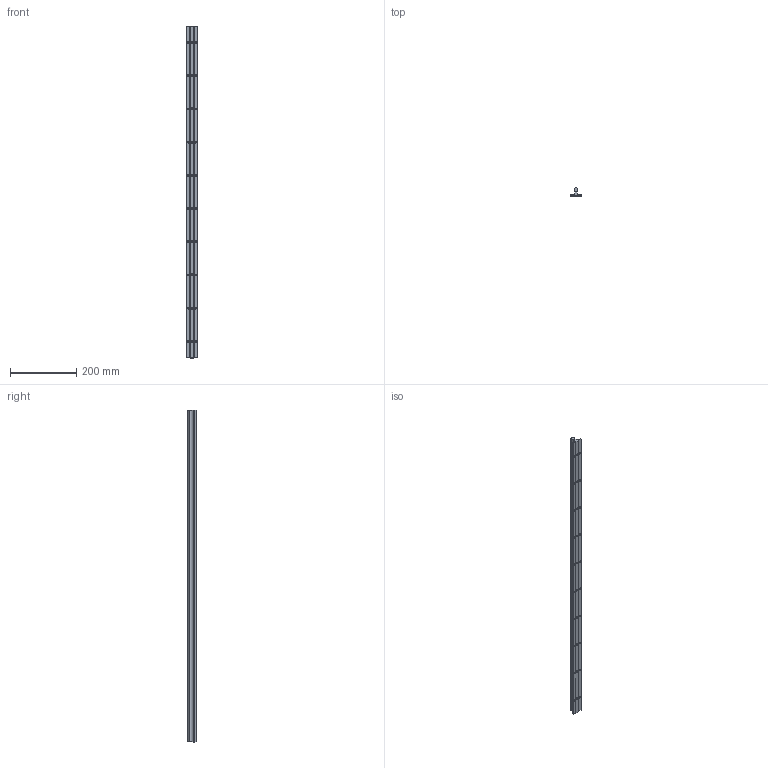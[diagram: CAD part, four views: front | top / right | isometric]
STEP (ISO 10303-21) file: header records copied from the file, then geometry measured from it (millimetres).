
FILE_DESCRIPTION (( 'STEP AP214' ), '1' );
FILE_NAME ('SBR-C12.STEP', '2020-10-01T10:26:57', ( '' ), ( '' ), 'SwSTEP 2.0', 'SolidWorks 2018', '' );
FILE_SCHEMA (( 'AUTOMOTIVE_DESIGN' ));
Length unit declared in the file: millimetre
Products named in the file (1): SBR-C12
Bounding box: 32 x 25 x 1000.1 mm (x, y, z)
Volume: 318319.3 mm3; surface area: 117131.9 mm2
Topology: 1 solids, 1 shells, 381 faces, 916 edges, 522 vertices
Faces by surface type: cone 120, cylinder 110, plane 79, bspline 32, torus 24, sphere 16
Entity records: 13442 total; most frequent: CARTESIAN_POINT 3644, DIRECTION 1872, ORIENTED_EDGE 1760, EDGE_CURVE 880, AXIS2_PLACEMENT_3D 706, VERTEX_POINT 522, LINE 460, VECTOR 460
